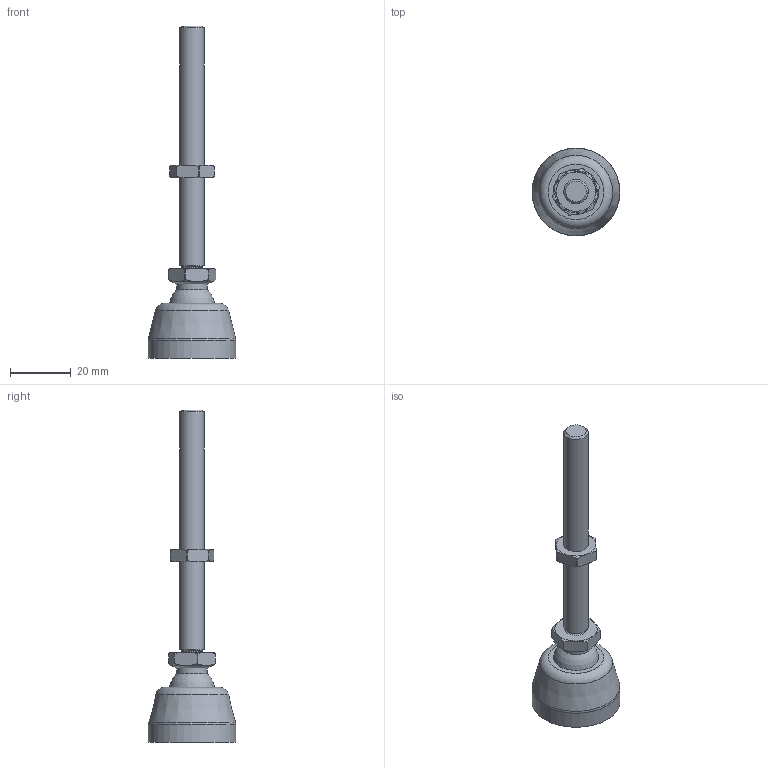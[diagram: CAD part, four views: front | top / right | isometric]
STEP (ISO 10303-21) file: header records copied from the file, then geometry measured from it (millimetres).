
FILE_DESCRIPTION(('STEP AP242'),'1');
FILE_NAME('TAPID30M08080PA.stp','2026-10-12T10:02:59',(' '),(' '),'Spatial InterOp 3D',' ',' ');
FILE_SCHEMA(('AP242_MANAGED_MODEL_BASED_3D_ENGINEERING_MIM_LF {1 0 10303 442 1 1 4}'));
Length unit declared in the file: millimetre
Products named in the file (5): Pied Ø30 M8x80 articulé réglable (+/- 30mm); Ecrou H DIN 439 M8; Tige filetée M8x80 (Ø15); Embase PA Ø30 (Ø15); TAPID30M08080PA
Assembly tree (4 placements, depth 3):
  TAPID30M08080PA
    Pied Ø30 M8x80 articulé réglable (+/- 30mm)
      Ecrou H DIN 439 M8
      Tige filetée M8x80 (Ø15)
      Embase PA Ø30 (Ø15)
Bounding box: 29 x 29 x 109.5 mm (x, y, z)
Volume: 14896.2 mm3; surface area: 6827.5 mm2
Topology: 3 solids, 4 shells, 80 faces, 174 edges, 104 vertices
Faces by surface type: torus 30, plane 22, cylinder 20, cone 6, sphere 2
Full cylindrical faces by diameter (mm): 6.75 x1, 6.8 x1, 8 x2, 10 x1, 15 x1, 21 x1, 29 x1
Entity records: 3358 total; most frequent: CARTESIAN_POINT 870, DIRECTION 346, ORIENTED_EDGE 294, AXIS2_PLACEMENT_3D 161, EDGE_CURVE 147, EDGE_LOOP 106, VERTEX_POINT 99, FACE_OUTER_BOUND 94
